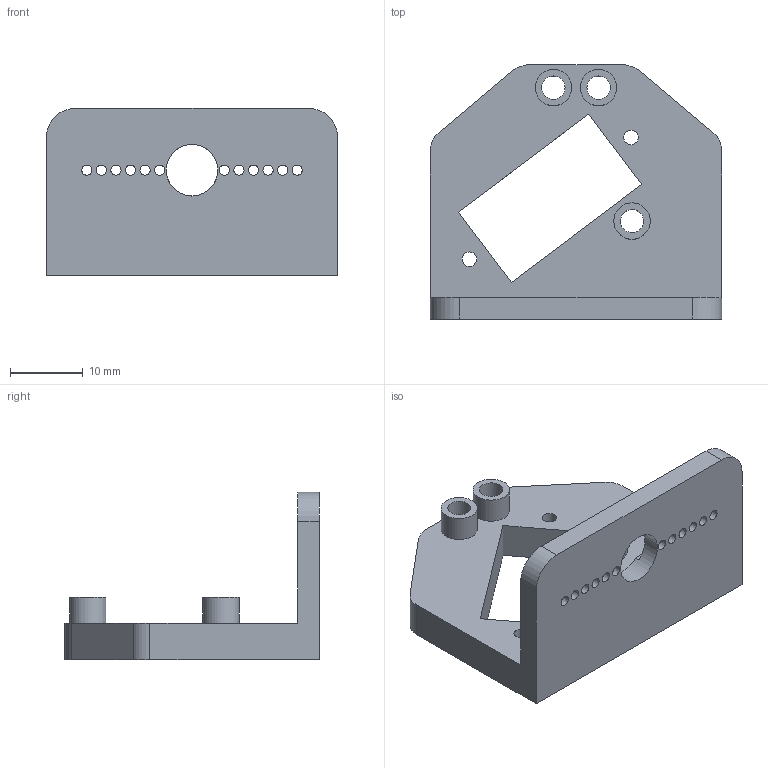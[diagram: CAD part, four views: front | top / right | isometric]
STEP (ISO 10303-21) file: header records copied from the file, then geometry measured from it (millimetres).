
FILE_DESCRIPTION(/* description */ (''),/* implementation_level */ '2;1');
FILE_NAME(/* name */ 'Claw Base W Servo_v1.tmp.step',/* time_stamp */ '2026-11-01T13:09:41+02:00',/* author */ (''),/* organization */ (''),/* preprocessor_version */ 'ST-DEVELOPER v20.2',/* originating_system */ 'Autodesk Translation Framework v15.15.0.0',/* authorisation */ '');
FILE_SCHEMA (('AUTOMOTIVE_DESIGN { 1 0 10303 214 3 1 1 }'));
Length unit declared in the file: millimetre
Products named in the file (1): Claw Base W Servo
Bounding box: 40 x 35 x 23 mm (x, y, z)
Volume: 6884.4 mm3; surface area: 5085.4 mm2
Topology: 1 solids, 1 shells, 52 faces, 141 edges, 94 vertices
Faces by surface type: cylinder 29, plane 23
Full cylindrical faces by diameter (mm): 1.4 x12, 2 x2, 3.2 x3, 5 x3, 7.1 x1
Entity records: 1776 total; most frequent: DIRECTION 309, CARTESIAN_POINT 288, ORIENTED_EDGE 282, EDGE_CURVE 141, AXIS2_PLACEMENT_3D 115, VERTEX_POINT 94, EDGE_LOOP 93, LINE 79
